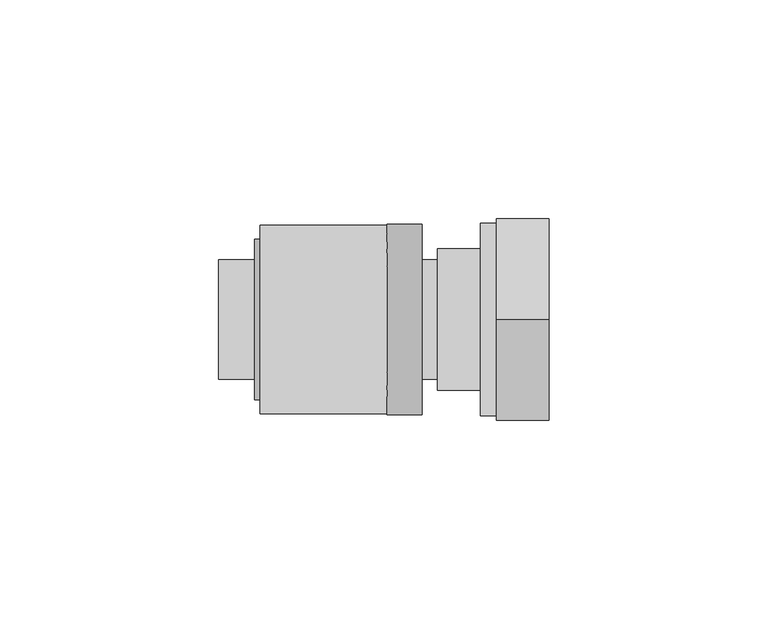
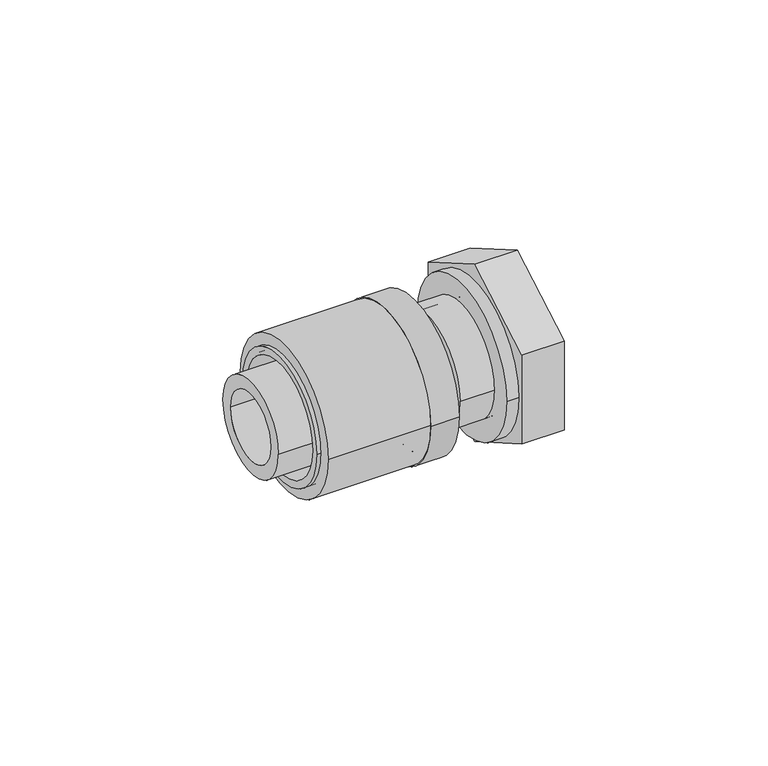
"""IFC4 building model written with IfcOpenShell, lengths in millimetres: pipe fitting geometry, FASTLOC_Adapter with union nut EX+ : FSL A union nut EX+ AT."""

from ifc_helpers import new_model, si_unit, point, frame, origin, origin_2d, place, context, project, spatial, polyline, circle_curve, trimmed, segment, composite_curve, outline, extrude, source, transform, mapped, element, save
from ifc_brep_helpers import plane_surface, cylinder_surface, revolved_surface, advanced_brep


def pipe_fitting_76e4ea32(model_context):
    return source(origin(), model_context, "Body", "SolidModel", [
        extrude(outline(composite_curve([segment(trimmed(circle_curve(origin_2d(), 21.5), [point((21.5, 0.0))], [point((-21.5, 0.0))], False, "CARTESIAN"), True, "CONTINUOUS"), segment(trimmed(circle_curve(origin_2d(), 21.5), [point((-21.5, 0.0))], [point((21.5, 0.0))], False, "CARTESIAN"), True, "CONTINUOUS")], self_intersect=False), holes=[composite_curve([segment(trimmed(circle_curve(origin_2d(), 16.85), [point((16.85, 0.0))], [point((-16.85, 0.0))], True, "CARTESIAN"), True, "CONTINUOUS"), segment(trimmed(circle_curve(origin_2d(), 16.85), [point((-16.85, 0.0))], [point((16.85, 0.0))], True, "CARTESIAN"), True, "CONTINUOUS")], self_intersect=False)]), frame((-40.5, 0.0, 0.0), z_axis=(1.0, 0.0, 0.0), x_axis=(0.0, 1.0, 0.0)), (0.0, 0.0, 1.0), 29.0),
        advanced_brep(
        [(-11.5, -21.8, 0.0), (-11.5, 21.8, 0.0), (-3.5, 21.8, 0.0), (-3.5, -21.8, 0.0), (-41.8, -18.35, 0.0), (-41.8, 18.35, 0.0), (-11.5, 18.35, 0.0), (-11.5, -18.35, 0.0), (-3.5, -16.2, 0.0), (-3.5, 16.2, 0.0), (-41.8, 16.2, 0.0), (-41.8, -16.2, 0.0)],
        [
            (0, 1, circle_curve(frame((-11.5, 0.0, 0.0), z_axis=(1.0, 0.0, 0.0), x_axis=(0.0, 1.0, 0.0)), 21.8)),
            (1, 2),
            (2, 3, circle_curve(frame((-3.5, 0.0, 0.0), z_axis=(-1.0, 0.0, 0.0), x_axis=(0.0, 1.0, 0.0)), 21.8)),
            (3, 0),
            (4, 5, circle_curve(frame((-41.8, 0.0, 0.0), z_axis=(1.0, 0.0, 0.0), x_axis=(0.0, 1.0, 0.0)), 18.35)),
            (5, 6),
            (6, 7, circle_curve(frame((-11.5, 0.0, 0.0), z_axis=(-1.0, 0.0, 0.0), x_axis=(0.0, 1.0, 0.0)), 18.35)),
            (7, 4),
            (8, 9, circle_curve(frame((-3.5, 0.0, 0.0), z_axis=(1.0, 0.0, 0.0), x_axis=(0.0, 1.0, 0.0)), 16.2)),
            (9, 10),
            (10, 11, circle_curve(frame((-41.8, 0.0, 0.0), z_axis=(-1.0, 0.0, 0.0), x_axis=(0.0, 1.0, 0.0)), 16.2)),
            (11, 8),
            (1, 0, circle_curve(frame((-11.5, 0.0, 0.0), z_axis=(1.0, 0.0, 0.0), x_axis=(0.0, -1.0, 0.0)), 21.8)),
            (3, 2, circle_curve(frame((-3.5, 0.0, 0.0), z_axis=(-1.0, 0.0, 0.0), x_axis=(0.0, -1.0, 0.0)), 21.8)),
            (6, 7, circle_curve(frame((-11.5, 0.0, 0.0), z_axis=(1.0, 0.0, 0.0), x_axis=(0.0, -1.0, 0.0)), 18.35)),
            (5, 4, circle_curve(frame((-41.8, 0.0, 0.0), z_axis=(1.0, 0.0, 0.0), x_axis=(0.0, -1.0, 0.0)), 18.35)),
            (10, 11, circle_curve(frame((-41.8, 0.0, 0.0), z_axis=(1.0, 0.0, 0.0), x_axis=(0.0, -1.0, 0.0)), 16.2)),
            (9, 8, circle_curve(frame((-3.5, 0.0, 0.0), z_axis=(1.0, 0.0, 0.0), x_axis=(0.0, -1.0, 0.0)), 16.2)),
        ],
        [
            cylinder_surface(frame((-3.5, 0.0, 0.0), z_axis=(-1.0, 0.0, 0.0), x_axis=(0.0, 1.0, 0.0)), 21.8),
            cylinder_surface(frame((-3.5, 0.0, 0.0), z_axis=(-1.0, 0.0, 0.0), x_axis=(0.0, 1.0, 0.0)), 18.35),
            revolved_surface(polyline([(-41.8, 16.2, 0.0), (-3.5, 16.2, 0.0)]), (-3.5, 0.0, 0.0), (-1.0, 0.0, 0.0)),
            cylinder_surface(frame((-3.5, 0.0, 0.0), z_axis=(-1.0, 0.0, 0.0), x_axis=(0.0, -1.0, 0.0)), 21.8),
            plane_surface(frame((-11.5, 0.0, 0.0), z_axis=(-1.0, 0.0, 0.0), x_axis=(0.0, -1.0, 0.0))),
            cylinder_surface(frame((-3.5, 0.0, 0.0), z_axis=(-1.0, 0.0, 0.0), x_axis=(0.0, -1.0, 0.0)), 18.35),
            plane_surface(frame((-41.8, 0.0, 0.0), z_axis=(-1.0, 0.0, 0.0), x_axis=(0.0, -1.0, 0.0))),
            revolved_surface(polyline([(-41.8, -16.2, 0.0), (-3.5, -16.2, 0.0)]), (-3.5, 0.0, 0.0), (-1.0, 0.0, 0.0)),
            plane_surface(frame((-3.5, 0.0, 0.0), z_axis=(1.0, 0.0, 0.0), x_axis=(0.0, -1.0, 0.0))),
        ],
        [
            (0, [[1, 2, 3, 4]]),
            (1, [[5, 6, 7, 8]]),
            (2, [[9, 10, 11, 12]]),
            (3, [[13, -4, 14, -2]]),
            (4, [[-13, -1], [15, -7]]),
            (5, [[16, -8, -15, -6]]),
            (6, [[-16, -5], [17, -11]]),
            (7, [[18, -12, -17, -10]]),
            (8, [[-14, -3], [-18, -9]]),
        ],
    ),
        advanced_brep(
        [(-18.75, 13.625, 0.0), (-18.75, -13.625, 0.0), (-50.0, -13.625, 0.0), (-50.0, 13.625, 0.0), (-13.125, 16.0, 0.0), (-13.125, -16.0, 0.0), (-18.75, -16.0, 0.0), (-18.75, 16.0, 0.0), (0.0, 13.625, 0.0), (0.0, -13.625, 0.0), (-13.125, -13.625, 0.0), (-13.125, 13.625, 0.0), (-50.0, 9.85, 0.0), (-50.0, -9.85, 0.0), (0.0, -9.85, 0.0), (0.0, 9.85, 0.0)],
        [
            (0, 1, circle_curve(frame((-18.75, 0.0, 0.0), z_axis=(-1.0, 0.0, 0.0), x_axis=(0.0, -1.0, 0.0)), 13.625)),
            (1, 2),
            (2, 3, circle_curve(frame((-50.0, 0.0, 0.0), z_axis=(1.0, 0.0, 0.0), x_axis=(0.0, -1.0, 0.0)), 13.625)),
            (3, 0),
            (4, 5, circle_curve(frame((-13.125, 0.0, 0.0), z_axis=(-1.0, 0.0, 0.0), x_axis=(0.0, -1.0, 0.0)), 16.0)),
            (5, 6),
            (6, 7, circle_curve(frame((-18.75, 0.0, 0.0), z_axis=(1.0, 0.0, 0.0), x_axis=(0.0, -1.0, 0.0)), 16.0)),
            (7, 4),
            (8, 9, circle_curve(frame((0.0, 0.0, 0.0), z_axis=(-1.0, 0.0, 0.0), x_axis=(0.0, -1.0, 0.0)), 13.625)),
            (9, 10),
            (10, 11, circle_curve(frame((-13.125, 0.0, 0.0), z_axis=(1.0, 0.0, 0.0), x_axis=(0.0, -1.0, 0.0)), 13.625)),
            (11, 8),
            (12, 13, circle_curve(frame((-50.0, 0.0, 0.0), z_axis=(-1.0, 0.0, 0.0), x_axis=(0.0, -1.0, 0.0)), 9.85)),
            (13, 14),
            (14, 15, circle_curve(frame((0.0, 0.0, 0.0), z_axis=(1.0, 0.0, 0.0), x_axis=(0.0, -1.0, 0.0)), 9.85)),
            (15, 12),
            (2, 3, circle_curve(frame((-50.0, 0.0, 0.0), z_axis=(-1.0, 0.0, 0.0), x_axis=(0.0, 1.0, 0.0)), 13.625)),
            (12, 13, circle_curve(frame((-50.0, 0.0, 0.0), z_axis=(1.0, 0.0, 0.0), x_axis=(0.0, 1.0, 0.0)), 9.85)),
            (1, 0, circle_curve(frame((-18.75, 0.0, 0.0), z_axis=(-1.0, 0.0, 0.0), x_axis=(0.0, 1.0, 0.0)), 13.625)),
            (6, 7, circle_curve(frame((-18.75, 0.0, 0.0), z_axis=(-1.0, 0.0, 0.0), x_axis=(0.0, 1.0, 0.0)), 16.0)),
            (5, 4, circle_curve(frame((-13.125, 0.0, 0.0), z_axis=(-1.0, 0.0, 0.0), x_axis=(0.0, 1.0, 0.0)), 16.0)),
            (10, 11, circle_curve(frame((-13.125, 0.0, 0.0), z_axis=(-1.0, 0.0, 0.0), x_axis=(0.0, 1.0, 0.0)), 13.625)),
            (9, 8, circle_curve(frame((0.0, 0.0, 0.0), z_axis=(-1.0, 0.0, 0.0), x_axis=(0.0, 1.0, 0.0)), 13.625)),
            (14, 15, circle_curve(frame((0.0, 0.0, 0.0), z_axis=(-1.0, 0.0, 0.0), x_axis=(0.0, 1.0, 0.0)), 9.85)),
        ],
        [
            cylinder_surface(frame((0.0, 0.0, 0.0), z_axis=(1.0, 0.0, 0.0), x_axis=(0.0, -1.0, 0.0)), 13.625),
            cylinder_surface(frame((0.0, 0.0, 0.0), z_axis=(1.0, 0.0, 0.0), x_axis=(0.0, -1.0, 0.0)), 16.0),
            revolved_surface(polyline([(0.0, -9.85, 0.0), (-50.0, -9.85, 0.0)]), (0.0, 0.0, 0.0), (1.0, 0.0, 0.0)),
            plane_surface(frame((-50.0, 0.0, 0.0), z_axis=(-1.0, 0.0, 0.0), x_axis=(0.0, 1.0, 0.0))),
            cylinder_surface(frame((0.0, 0.0, 0.0), z_axis=(1.0, 0.0, 0.0), x_axis=(0.0, 1.0, 0.0)), 13.625),
            plane_surface(frame((-18.75, 0.0, 0.0), z_axis=(-1.0, 0.0, 0.0), x_axis=(0.0, 1.0, 0.0))),
            cylinder_surface(frame((0.0, 0.0, 0.0), z_axis=(1.0, 0.0, 0.0), x_axis=(0.0, 1.0, 0.0)), 16.0),
            plane_surface(frame((-13.125, 0.0, 0.0), z_axis=(1.0, 0.0, 0.0), x_axis=(0.0, 1.0, 0.0))),
            plane_surface(frame((0.0, 0.0, 0.0), z_axis=(1.0, 0.0, 0.0), x_axis=(0.0, 1.0, 0.0))),
            revolved_surface(polyline([(0.0, 9.85, 0.0), (-50.0, 9.85, 0.0)]), (0.0, 0.0, 0.0), (1.0, 0.0, 0.0)),
        ],
        [
            (0, [[1, 2, 3, 4]]),
            (1, [[5, 6, 7, 8]]),
            (0, [[9, 10, 11, 12]]),
            (2, [[13, 14, 15, 16]]),
            (3, [[17, -3], [18, -13]]),
            (4, [[19, -4, -17, -2]]),
            (5, [[20, -7], [-19, -1]]),
            (6, [[21, -8, -20, -6]]),
            (7, [[-21, -5], [22, -11]]),
            (4, [[23, -12, -22, -10]]),
            (8, [[-23, -9], [24, -15]]),
            (9, [[-18, -16, -24, -14]]),
        ],
    ),
        extrude(outline(polyline([(0.0, -26.5581124), (-23.0, -13.2790562), (-23.0, 13.2790562), (0.0, 26.5581124), (23.0, 13.2790562), (23.0, -13.2790562), (0.0, -26.5581124)]), holes=[composite_curve([segment(trimmed(circle_curve(origin_2d(), 19.0), [point((-19.0, 0.0))], [point((19.0, 0.0))], True, "CARTESIAN"), True, "CONTINUOUS"), segment(trimmed(circle_curve(origin_2d(), 19.0), [point((19.0, 0.0))], [point((-19.0, 0.0))], True, "CARTESIAN"), True, "CONTINUOUS")], self_intersect=False)]), frame((13.5, 0.0, 0.0), z_axis=(1.0, 0.0, 0.0), x_axis=(0.0, 1.0, 0.0)), (0.0, 0.0, 1.0), 12.0),
        advanced_brep(
        [(25.5, 22.0, 0.0), (25.5, -22.0, 0.0), (9.9, -22.0, 0.0), (9.9, 22.0, 0.0), (13.5, 19.0, 0.0), (13.5, -19.0, 0.0), (25.5, -19.0, 0.0), (25.5, 19.0, 0.0), (9.9, 15.4, 0.0), (9.9, -15.4, 0.0), (13.5, -15.4, 0.0), (13.5, 15.4, 0.0)],
        [
            (0, 1, circle_curve(frame((25.5, 0.0, 0.0), z_axis=(-1.0, 0.0, 0.0), x_axis=(0.0, -1.0, 0.0)), 22.0)),
            (1, 2),
            (2, 3, circle_curve(frame((9.9, 0.0, 0.0), z_axis=(1.0, 0.0, 0.0), x_axis=(0.0, -1.0, 0.0)), 22.0)),
            (3, 0),
            (4, 5, circle_curve(frame((13.5, 0.0, 0.0), z_axis=(-1.0, 0.0, 0.0), x_axis=(0.0, -1.0, 0.0)), 19.0)),
            (5, 6),
            (6, 7, circle_curve(frame((25.5, 0.0, 0.0), z_axis=(1.0, 0.0, 0.0), x_axis=(0.0, -1.0, 0.0)), 19.0)),
            (7, 4),
            (8, 9, circle_curve(frame((9.9, 0.0, 0.0), z_axis=(-1.0, 0.0, 0.0), x_axis=(0.0, -1.0, 0.0)), 15.4)),
            (9, 10),
            (10, 11, circle_curve(frame((13.5, 0.0, 0.0), z_axis=(1.0, 0.0, 0.0), x_axis=(0.0, -1.0, 0.0)), 15.4)),
            (11, 8),
            (1, 0, circle_curve(frame((25.5, 0.0, 0.0), z_axis=(-1.0, 0.0, 0.0), x_axis=(0.0, 1.0, 0.0)), 22.0)),
            (3, 2, circle_curve(frame((9.9, 0.0, 0.0), z_axis=(1.0, 0.0, 0.0), x_axis=(0.0, 1.0, 0.0)), 22.0)),
            (6, 7, circle_curve(frame((25.5, 0.0, 0.0), z_axis=(-1.0, 0.0, 0.0), x_axis=(0.0, 1.0, 0.0)), 19.0)),
            (5, 4, circle_curve(frame((13.5, 0.0, 0.0), z_axis=(-1.0, 0.0, 0.0), x_axis=(0.0, 1.0, 0.0)), 19.0)),
            (10, 11, circle_curve(frame((13.5, 0.0, 0.0), z_axis=(-1.0, 0.0, 0.0), x_axis=(0.0, 1.0, 0.0)), 15.4)),
            (9, 8, circle_curve(frame((9.9, 0.0, 0.0), z_axis=(-1.0, 0.0, 0.0), x_axis=(0.0, 1.0, 0.0)), 15.4)),
        ],
        [
            cylinder_surface(frame((0.0, 0.0, 0.0), z_axis=(1.0, 0.0, 0.0), x_axis=(0.0, -1.0, 0.0)), 22.0),
            revolved_surface(polyline([(25.5, -19.0, 0.0), (13.5, -19.0, 0.0)]), (0.0, 0.0, 0.0), (1.0, 0.0, 0.0)),
            revolved_surface(polyline([(13.5, -15.4, 0.0), (9.9, -15.4, 0.0)]), (0.0, 0.0, 0.0), (1.0, 0.0, 0.0)),
            cylinder_surface(frame((0.0, 0.0, 0.0), z_axis=(1.0, 0.0, 0.0), x_axis=(0.0, 1.0, 0.0)), 22.0),
            plane_surface(frame((25.5, 0.0, 0.0), z_axis=(1.0, 0.0, 0.0), x_axis=(0.0, 1.0, 0.0))),
            revolved_surface(polyline([(25.5, 19.0, 0.0), (13.5, 19.0, 0.0)]), (0.0, 0.0, 0.0), (1.0, 0.0, 0.0)),
            plane_surface(frame((13.5, 0.0, 0.0), z_axis=(1.0, 0.0, 0.0), x_axis=(0.0, 1.0, 0.0))),
            revolved_surface(polyline([(13.5, 15.4, 0.0), (9.9, 15.4, 0.0)]), (0.0, 0.0, 0.0), (1.0, 0.0, 0.0)),
            plane_surface(frame((9.9, 0.0, 0.0), z_axis=(-1.0, 0.0, 0.0), x_axis=(0.0, 1.0, 0.0))),
        ],
        [
            (0, [[1, 2, 3, 4]]),
            (1, [[5, 6, 7, 8]]),
            (2, [[9, 10, 11, 12]]),
            (3, [[13, -4, 14, -2]]),
            (4, [[-13, -1], [15, -7]]),
            (5, [[16, -8, -15, -6]]),
            (6, [[-16, -5], [17, -11]]),
            (7, [[18, -12, -17, -10]]),
            (8, [[-14, -3], [-18, -9]]),
        ],
    ),
        advanced_brep(
        [(12.0, 16.175, 0.0), (12.0, -16.175, 0.0), (0.0, -16.175, 0.0), (0.0, 16.175, 0.0), (13.95, 20.15, 0.0), (13.95, -20.15, 0.0), (12.0, -20.15, 0.0), (12.0, 20.15, 0.0), (1.4730817, 14.15, 0.0), (1.4730817, -14.15, 0.0), (13.95, -14.15, 0.0), (13.95, 14.15, 0.0), (0.0, 11.9764556, 0.0), (0.0, -11.9764556, 0.0), (1.4730817, -11.9764556, 0.0), (1.4730817, 11.9764556, 0.0)],
        [
            (0, 1, circle_curve(frame((12.0, 0.0, 0.0), z_axis=(-1.0, 0.0, 0.0), x_axis=(0.0, -1.0, 0.0)), 16.175)),
            (1, 2),
            (2, 3, circle_curve(frame((0.0, 0.0, 0.0), z_axis=(1.0, 0.0, 0.0), x_axis=(0.0, -1.0, 0.0)), 16.175)),
            (3, 0),
            (4, 5, circle_curve(frame((13.95, 0.0, 0.0), z_axis=(-1.0, 0.0, 0.0), x_axis=(0.0, -1.0, 0.0)), 20.15)),
            (5, 6),
            (6, 7, circle_curve(frame((12.0, 0.0, 0.0), z_axis=(1.0, 0.0, 0.0), x_axis=(0.0, -1.0, 0.0)), 20.15)),
            (7, 4),
            (8, 9, circle_curve(frame((1.4730817, 0.0, 0.0), z_axis=(-1.0, 0.0, 0.0), x_axis=(0.0, -1.0, 0.0)), 14.15)),
            (9, 10),
            (10, 11, circle_curve(frame((13.95, 0.0, 0.0), z_axis=(1.0, 0.0, 0.0), x_axis=(0.0, -1.0, 0.0)), 14.15)),
            (11, 8),
            (12, 13, circle_curve(frame((0.0, 0.0, 0.0), z_axis=(-1.0, 0.0, 0.0), x_axis=(0.0, -1.0, 0.0)), 11.9764556)),
            (13, 14),
            (14, 15, circle_curve(frame((1.4730817, 0.0, 0.0), z_axis=(1.0, 0.0, 0.0), x_axis=(0.0, -1.0, 0.0)), 11.9764556)),
            (15, 12),
            (2, 3, circle_curve(frame((0.0, 0.0, 0.0), z_axis=(-1.0, 0.0, 0.0), x_axis=(0.0, 1.0, 0.0)), 16.175)),
            (12, 13, circle_curve(frame((0.0, 0.0, 0.0), z_axis=(1.0, 0.0, 0.0), x_axis=(0.0, 1.0, 0.0)), 11.9764556)),
            (1, 0, circle_curve(frame((12.0, 0.0, 0.0), z_axis=(-1.0, 0.0, 0.0), x_axis=(0.0, 1.0, 0.0)), 16.175)),
            (6, 7, circle_curve(frame((12.0, 0.0, 0.0), z_axis=(-1.0, 0.0, 0.0), x_axis=(0.0, 1.0, 0.0)), 20.15)),
            (5, 4, circle_curve(frame((13.95, 0.0, 0.0), z_axis=(-1.0, 0.0, 0.0), x_axis=(0.0, 1.0, 0.0)), 20.15)),
            (10, 11, circle_curve(frame((13.95, 0.0, 0.0), z_axis=(-1.0, 0.0, 0.0), x_axis=(0.0, 1.0, 0.0)), 14.15)),
            (9, 8, circle_curve(frame((1.4730817, 0.0, 0.0), z_axis=(-1.0, 0.0, 0.0), x_axis=(0.0, 1.0, 0.0)), 14.15)),
            (14, 15, circle_curve(frame((1.4730817, 0.0, 0.0), z_axis=(-1.0, 0.0, 0.0), x_axis=(0.0, 1.0, 0.0)), 11.9764556)),
        ],
        [
            cylinder_surface(frame((0.0, 0.0, 0.0), z_axis=(1.0, 0.0, 0.0), x_axis=(0.0, -1.0, 0.0)), 16.175),
            cylinder_surface(frame((0.0, 0.0, 0.0), z_axis=(1.0, 0.0, 0.0), x_axis=(0.0, -1.0, 0.0)), 20.15),
            revolved_surface(polyline([(13.95, -14.15, 0.0), (1.4730817, -14.15, 0.0)]), (0.0, 0.0, 0.0), (1.0, 0.0, 0.0)),
            revolved_surface(polyline([(1.4730817, -11.9764556, 0.0), (0.0, -11.9764556, 0.0)]), (0.0, 0.0, 0.0), (1.0, 0.0, 0.0)),
            plane_surface(frame((0.0, 0.0, 0.0), z_axis=(-1.0, 0.0, 0.0), x_axis=(0.0, 1.0, 0.0))),
            cylinder_surface(frame((0.0, 0.0, 0.0), z_axis=(1.0, 0.0, 0.0), x_axis=(0.0, 1.0, 0.0)), 16.175),
            plane_surface(frame((12.0, 0.0, 0.0), z_axis=(-1.0, 0.0, 0.0), x_axis=(0.0, 1.0, 0.0))),
            cylinder_surface(frame((0.0, 0.0, 0.0), z_axis=(1.0, 0.0, 0.0), x_axis=(0.0, 1.0, 0.0)), 20.15),
            plane_surface(frame((13.95, 0.0, 0.0), z_axis=(1.0, 0.0, 0.0), x_axis=(0.0, 1.0, 0.0))),
            revolved_surface(polyline([(13.95, 14.15, 0.0), (1.4730817, 14.15, 0.0)]), (0.0, 0.0, 0.0), (1.0, 0.0, 0.0)),
            plane_surface(frame((1.4730817, 0.0, 0.0), z_axis=(1.0, 0.0, 0.0), x_axis=(0.0, 1.0, 0.0))),
            revolved_surface(polyline([(1.4730817, 11.9764556, 0.0), (0.0, 11.9764556, 0.0)]), (0.0, 0.0, 0.0), (1.0, 0.0, 0.0)),
        ],
        [
            (0, [[1, 2, 3, 4]]),
            (1, [[5, 6, 7, 8]]),
            (2, [[9, 10, 11, 12]]),
            (3, [[13, 14, 15, 16]]),
            (4, [[17, -3], [18, -13]]),
            (5, [[19, -4, -17, -2]]),
            (6, [[20, -7], [-19, -1]]),
            (7, [[21, -8, -20, -6]]),
            (8, [[-21, -5], [22, -11]]),
            (9, [[23, -12, -22, -10]]),
            (10, [[-23, -9], [24, -15]]),
            (11, [[-18, -16, -24, -14]]),
        ],
    ),
    ])


if __name__ == "__main__":
    model = new_model("IFC4")
    model_context = context("Model", 3, world=origin())
    ifc_project = project(units=[si_unit("LENGTHUNIT", "METRE", prefix="MILLI")], contexts=[model_context])
    site = spatial("IfcSite", under=ifc_project)
    building = spatial("IfcBuilding", under=site)
    placement = place(None, origin())
    pipe_fitting_shape = pipe_fitting_76e4ea32(model_context)
    element("IfcPipeFitting", 1, ObjectType="FASTLOC_Adapter with union nut EX+ : FSL A union nut EX+ AT", at=placement, inside=building, context=model_context, shape_type="MappedRepresentation", body=[
        mapped(pipe_fitting_shape, transform((0.0, 0.0, 0.0), x_axis=(1.0, 0.0, 0.0), y_axis=(0.0, 1.0, 0.0), z_axis=(0.0, 0.0, 1.0))),
    ])
    save(model, "model.ifc")
